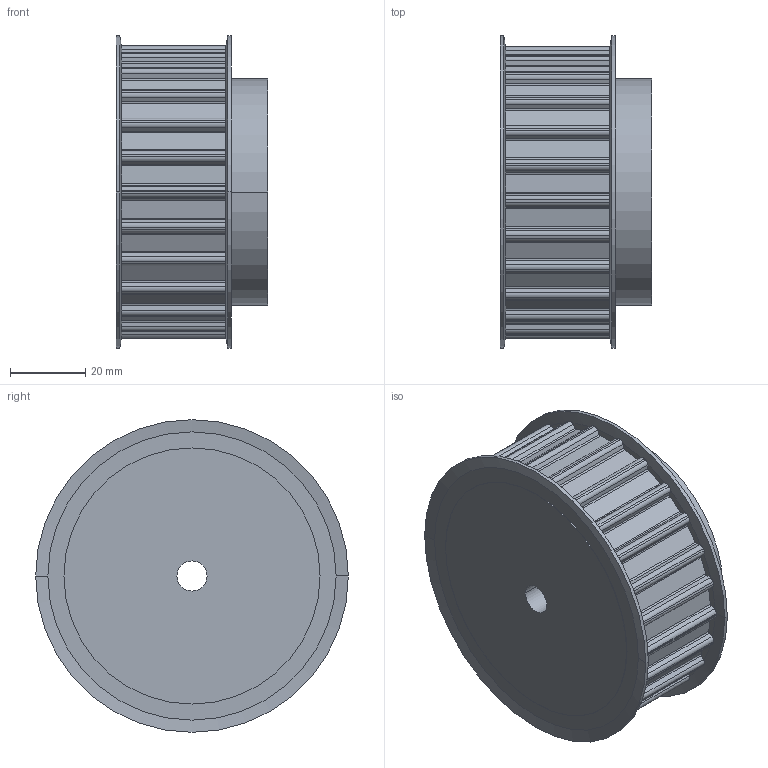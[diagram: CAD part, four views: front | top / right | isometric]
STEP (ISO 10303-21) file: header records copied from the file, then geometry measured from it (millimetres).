
FILE_DESCRIPTION( ( '' ), '1' );
FILE_NAME( 'C:/Users/Stangenbergd/Documents/CAD_Step/1/16832500.stp', '2021-10-19T09:45:38', ( '' ), ( '' ), ' ', ' ', ' ' );
FILE_SCHEMA( ( 'CONFIG_CONTROL_DESIGN' ) );
Length unit declared in the file: millimetre
Products named in the file (1): 1
Bounding box: 40.31 x 83 x 83 mm (x, y, z)
Volume: 159299.5 mm3; surface area: 24702.8 mm2
Topology: 1 solids, 1 shells, 326 faces, 855 edges, 534 vertices
Faces by surface type: plane 180, cylinder 138, cone 8
Entity records: 10207 total; most frequent: DIRECTION 1993, CARTESIAN_POINT 1716, ORIENTED_EDGE 1710, EDGE_CURVE 855, AXIS2_PLACEMENT_3D 811, VERTEX_POINT 534, CIRCLE 484, LINE 371
